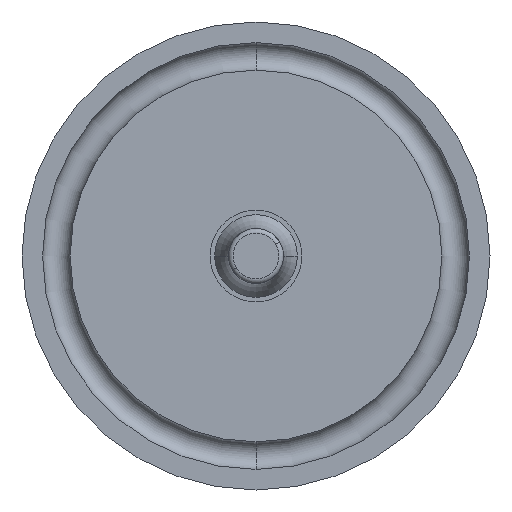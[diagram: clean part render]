
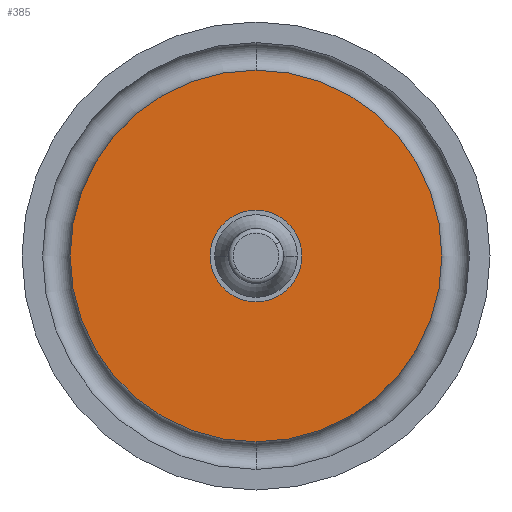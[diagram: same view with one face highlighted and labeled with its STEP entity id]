
A CAD part, front view. The second image highlights one B-rep face of the part: STEP entity #385.
In plain terms, the highlighted planar face has unit normal (0, -1, 0).
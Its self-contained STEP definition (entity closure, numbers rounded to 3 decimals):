
#279 = DIRECTION ( 'NONE',  ( 0., 0., 1. ) ) ;
#360 = AXIS2_PLACEMENT_3D ( 'NONE', #3794, #5533, #1619 ) ;
#385 = ADVANCED_FACE ( 'NONE', ( #2320, #1838 ), #4010, .F. ) ;
#393 = ORIENTED_EDGE ( 'NONE', *, *, #3529, .F. ) ;
#532 = AXIS2_PLACEMENT_3D ( 'NONE', #1160, #2442, #279 ) ;
#628 = DIRECTION ( 'NONE',  ( 0., 1., 0. ) ) ;
#750 = EDGE_LOOP ( 'NONE', ( #932, #393 ) ) ;
#911 = CIRCLE ( 'NONE', #3097, 20.25 ) ;
#932 = ORIENTED_EDGE ( 'NONE', *, *, #2176, .F. ) ;
#1097 = CARTESIAN_POINT ( 'NONE',  ( 0., 0., 0. ) ) ;
#1160 = CARTESIAN_POINT ( 'NONE',  ( 0., 0., 0. ) ) ;
#1278 = CARTESIAN_POINT ( 'NONE',  ( 5., 0., 0. ) ) ;
#1619 = DIRECTION ( 'NONE',  ( 0., 0., 1. ) ) ;
#1838 = FACE_BOUND ( 'NONE', #2563, .T. ) ;
#2051 = CARTESIAN_POINT ( 'NONE',  ( 0., 0., 20.25 ) ) ;
#2176 = EDGE_CURVE ( 'NONE', #4317, #2183, #3913, .T. ) ;
#2183 = VERTEX_POINT ( 'NONE', #4245 ) ;
#2320 = FACE_OUTER_BOUND ( 'NONE', #750, .T. ) ;
#2343 = VERTEX_POINT ( 'NONE', #2693 ) ;
#2442 = DIRECTION ( 'NONE',  ( 0., 1., 0. ) ) ;
#2550 = CIRCLE ( 'NONE', #360, 5. ) ;
#2563 = EDGE_LOOP ( 'NONE', ( #3379, #4913 ) ) ;
#2693 = CARTESIAN_POINT ( 'NONE',  ( 0., 0., 5. ) ) ;
#2806 = DIRECTION ( 'NONE',  ( 0., 1., 0. ) ) ;
#2879 = CARTESIAN_POINT ( 'NONE',  ( 0., 0., 0. ) ) ;
#2948 = AXIS2_PLACEMENT_3D ( 'NONE', #2879, #628, #4138 ) ;
#3002 = VERTEX_POINT ( 'NONE', #4668 ) ;
#3097 = AXIS2_PLACEMENT_3D ( 'NONE', #1097, #2806, #4548 ) ;
#3379 = ORIENTED_EDGE ( 'NONE', *, *, #3579, .T. ) ;
#3529 = EDGE_CURVE ( 'NONE', #2183, #4317, #911, .T. ) ;
#3579 = EDGE_CURVE ( 'NONE', #2343, #3002, #2550, .T. ) ;
#3586 = DIRECTION ( 'NONE',  ( 0., 1., 0. ) ) ;
#3618 = DIRECTION ( 'NONE',  ( 0., 0., 1. ) ) ;
#3794 = CARTESIAN_POINT ( 'NONE',  ( 0., 0., 0. ) ) ;
#3913 = CIRCLE ( 'NONE', #532, 20.25 ) ;
#4010 = PLANE ( 'NONE',  #4456 ) ;
#4138 = DIRECTION ( 'NONE',  ( 0., 0., 1. ) ) ;
#4245 = CARTESIAN_POINT ( 'NONE',  ( 0., 0., -20.25 ) ) ;
#4317 = VERTEX_POINT ( 'NONE', #2051 ) ;
#4456 = AXIS2_PLACEMENT_3D ( 'NONE', #1278, #3586, #3618 ) ;
#4548 = DIRECTION ( 'NONE',  ( 0., 0., 1. ) ) ;
#4668 = CARTESIAN_POINT ( 'NONE',  ( 0., 0., -5. ) ) ;
#4913 = ORIENTED_EDGE ( 'NONE', *, *, #5497, .T. ) ;
#5324 = CIRCLE ( 'NONE', #2948, 5. ) ;
#5497 = EDGE_CURVE ( 'NONE', #3002, #2343, #5324, .T. ) ;
#5533 = DIRECTION ( 'NONE',  ( 0., 1., 0. ) ) ;
